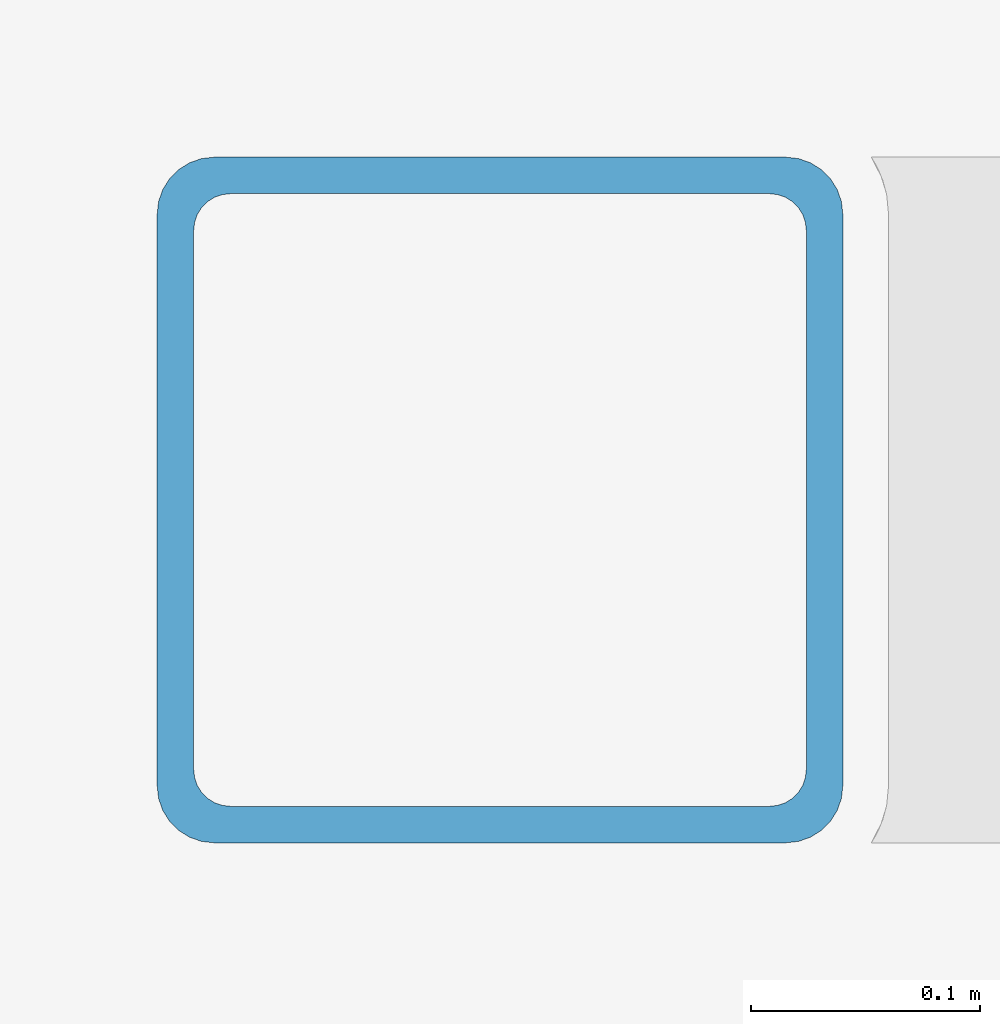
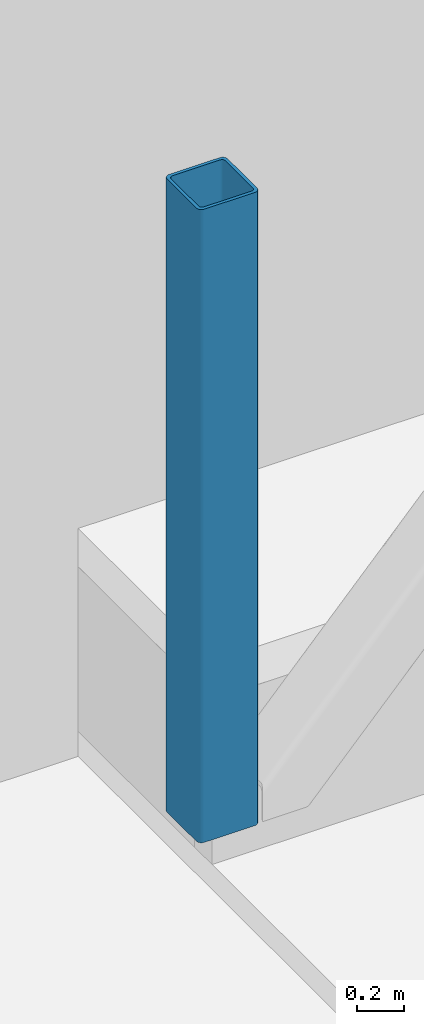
# One storey, part 13 of 34: 1 beam.
"""IFC2X3 building model written with IfcOpenShell, lengths in millimetres."""

from ifc_helpers import new_model, entity, si_unit, converted_unit, derived_unit, direction, frame, frame_2d, origin, place, context, subcontext, project, spatial, polyline, circle_curve, parameter, trimmed, segment, composite_curve, outline, extrude, material, type_object, element, save


model = new_model("IFC2X3")

# Units and contexts
model_context = context("Model", 3, precision=0.01, world=origin(), true_north=direction((6.12303176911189e-17, 1.0)))
body_context = subcontext(model_context, "Body", "Model", "MODEL_VIEW")
ifc_project = project(units=[si_unit("LENGTHUNIT", "METRE", prefix="MILLI"), si_unit("AREAUNIT", "SQUARE_METRE", prefix="MILLI"), si_unit("VOLUMEUNIT", "CUBIC_METRE"), converted_unit("PLANEANGLEUNIT", "DEGREE", entity("IfcRatioMeasure", 0.0174532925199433), si_unit("PLANEANGLEUNIT", "RADIAN"), dimensions=[0, 0, 0, 0, 0, 0, 0]), si_unit("MASSUNIT", "GRAM", prefix="KILO"), derived_unit("MASSDENSITYUNIT", [(si_unit("MASSUNIT", "GRAM", prefix="KILO"), 1), (si_unit("LENGTHUNIT", "METRE"), -3)]), derived_unit("MOMENTOFINERTIAUNIT", [(si_unit("LENGTHUNIT", "METRE"), 4)]), si_unit("TIMEUNIT", "SECOND"), si_unit("FREQUENCYUNIT", "HERTZ"), si_unit("THERMODYNAMICTEMPERATUREUNIT", "DEGREE_CELSIUS"), derived_unit("THERMALTRANSMITTANCEUNIT", [(si_unit("MASSUNIT", "GRAM", prefix="KILO"), 1), (si_unit("THERMODYNAMICTEMPERATUREUNIT", "KELVIN"), -1), (si_unit("TIMEUNIT", "SECOND"), -3)]), derived_unit("VOLUMETRICFLOWRATEUNIT", [(si_unit("LENGTHUNIT", "METRE"), 3), (si_unit("TIMEUNIT", "SECOND"), -1)]), si_unit("ELECTRICCURRENTUNIT", "AMPERE"), si_unit("ELECTRICVOLTAGEUNIT", "VOLT"), si_unit("POWERUNIT", "WATT"), si_unit("FORCEUNIT", "NEWTON", prefix="KILO"), si_unit("ILLUMINANCEUNIT", "LUX"), si_unit("LUMINOUSFLUXUNIT", "LUMEN"), si_unit("LUMINOUSINTENSITYUNIT", "CANDELA"), derived_unit("USERDEFINED", [(si_unit("MASSUNIT", "GRAM", prefix="KILO"), -1), (si_unit("LENGTHUNIT", "METRE"), -2), (si_unit("TIMEUNIT", "SECOND"), 3), (si_unit("LUMINOUSFLUXUNIT", "LUMEN"), 1)]), derived_unit("LINEARVELOCITYUNIT", [(si_unit("LENGTHUNIT", "METRE"), 1), (si_unit("TIMEUNIT", "SECOND"), -1)]), si_unit("PRESSUREUNIT", "PASCAL"), derived_unit("USERDEFINED", [(si_unit("LENGTHUNIT", "METRE"), -2), (si_unit("MASSUNIT", "GRAM", prefix="KILO"), 1), (si_unit("TIMEUNIT", "SECOND"), -2)]), derived_unit("LINEARFORCEUNIT", [(si_unit("MASSUNIT", "GRAM", prefix="KILO"), 1), (si_unit("LENGTHUNIT", "METRE"), 1), (si_unit("TIMEUNIT", "SECOND"), -2), (si_unit("LENGTHUNIT", "METRE"), -1)]), derived_unit("PLANARFORCEUNIT", [(si_unit("MASSUNIT", "GRAM", prefix="KILO"), 1), (si_unit("LENGTHUNIT", "METRE"), 1), (si_unit("TIMEUNIT", "SECOND"), -2), (si_unit("LENGTHUNIT", "METRE"), -2)])], contexts=[model_context])

# Site, building, storey
site_placement = place(None, origin())
site = spatial("IfcSite", under=ifc_project, at=site_placement, Name="Theater aan de Parade", CompositionType="ELEMENT")
building_placement = place(site_placement, origin())
building = spatial("IfcBuilding", under=site, at=building_placement, Name="Theater aan de Parade", CompositionType="ELEMENT")
storey_placement = place(building_placement, frame((0.0, 0.0, 3.49116848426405e-09)))
storey = spatial("IfcBuildingStorey", under=building, at=storey_placement, Name="00 begane grond", CompositionType="ELEMENT", Elevation=3.49116848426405e-09)

# Beam
ifc_material = material(Name="00_PBT_MAT_staal_S355")
beam_type = type_object("IfcBeamType", Name="28_PBT_SF_staal_koker:S355_K300x300x16", PredefinedType="NOTDEFINED")
beam_placement = place(storey_placement, frame((60550.5520755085, 12955.0, 4680.0), z_axis=(1.0, 0.0, 0.0), x_axis=(0.0, 0.0, 1.0)))
element("IfcBeam", 1, at=beam_placement, inside=storey, type_object=beam_type, material=ifc_material, Name="28_PBT_SF_staal_koker:S355_K300x300x16", ObjectType="28_PBT_SF_staal_koker:S355_K300x300x16", context=body_context, shape_type="SweptSolid", body=[
    extrude(outline(composite_curve([segment(polyline([(-125.0, -150.0), (125.0, -150.0)]), True, "CONTINUOUS"), segment(trimmed(circle_curve(frame_2d((125.0, -125.0), x_axis=(0.0, 1.0)), 25.0), [parameter(180.0)], [parameter(270.0)], True, "PARAMETER"), True, "CONTINUOUS"), segment(polyline([(150.0, -125.0), (150.0, 125.0)]), True, "CONTINUOUS"), segment(trimmed(circle_curve(frame_2d((125.0, 125.0), x_axis=(0.0, 1.0)), 25.0), [parameter(270.0)], [parameter(360.0)], True, "PARAMETER"), True, "CONTINUOUS"), segment(polyline([(125.0, 150.0), (-125.0, 150.0)]), True, "CONTINUOUS"), segment(trimmed(circle_curve(frame_2d((-125.0, 125.0), x_axis=(0.0, 1.0)), 25.0), [parameter(0.0)], [parameter(90.0000000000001)], True, "PARAMETER"), True, "CONTINUOUS"), segment(polyline([(-150.0, 125.0), (-150.0, -125.0)]), True, "CONTINUOUS"), segment(trimmed(circle_curve(frame_2d((-125.0, -125.0), x_axis=(0.0, 1.0)), 25.0), [parameter(89.9999999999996)], [parameter(180.0)], True, "PARAMETER"), True, "CONTINUOUS")], self_intersect=False), holes=[composite_curve([segment(polyline([(134.0, 118.0), (134.0, -118.0)]), True, "CONTINUOUS"), segment(trimmed(circle_curve(frame_2d((118.0, -118.0), x_axis=(0.0, 1.0)), 16.0), [parameter(180.0)], [parameter(270.0)], True, "PARAMETER"), False, "CONTINUOUS"), segment(polyline([(118.0, -134.0), (-118.0, -134.0)]), True, "CONTINUOUS"), segment(trimmed(circle_curve(frame_2d((-118.0, -118.0), x_axis=(0.0, 1.0)), 16.0), [parameter(90.0)], [parameter(180.0)], True, "PARAMETER"), False, "CONTINUOUS"), segment(polyline([(-134.0, -118.0), (-134.0, 118.0)]), True, "CONTINUOUS"), segment(trimmed(circle_curve(frame_2d((-118.0, 118.0), x_axis=(0.0, 1.0)), 16.0), [parameter(3.56222124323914e-13)], [parameter(90.0000000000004)], True, "PARAMETER"), False, "CONTINUOUS"), segment(polyline([(-118.0, 134.0), (118.0, 134.0)]), True, "CONTINUOUS"), segment(trimmed(circle_curve(frame_2d((118.0, 118.0), x_axis=(0.0, 1.0)), 16.0), [parameter(270.0)], [parameter(5.08888749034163e-14)], True, "PARAMETER"), False, "CONTINUOUS")], self_intersect=False)]), frame((212.699999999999, 0.0, 0.0), z_axis=(1.0, 0.0, 0.0), x_axis=(0.0, 0.0, 1.0)), (0.0, 0.0, 1.0), 3304.6),
])

save(model, "model.ifc")
